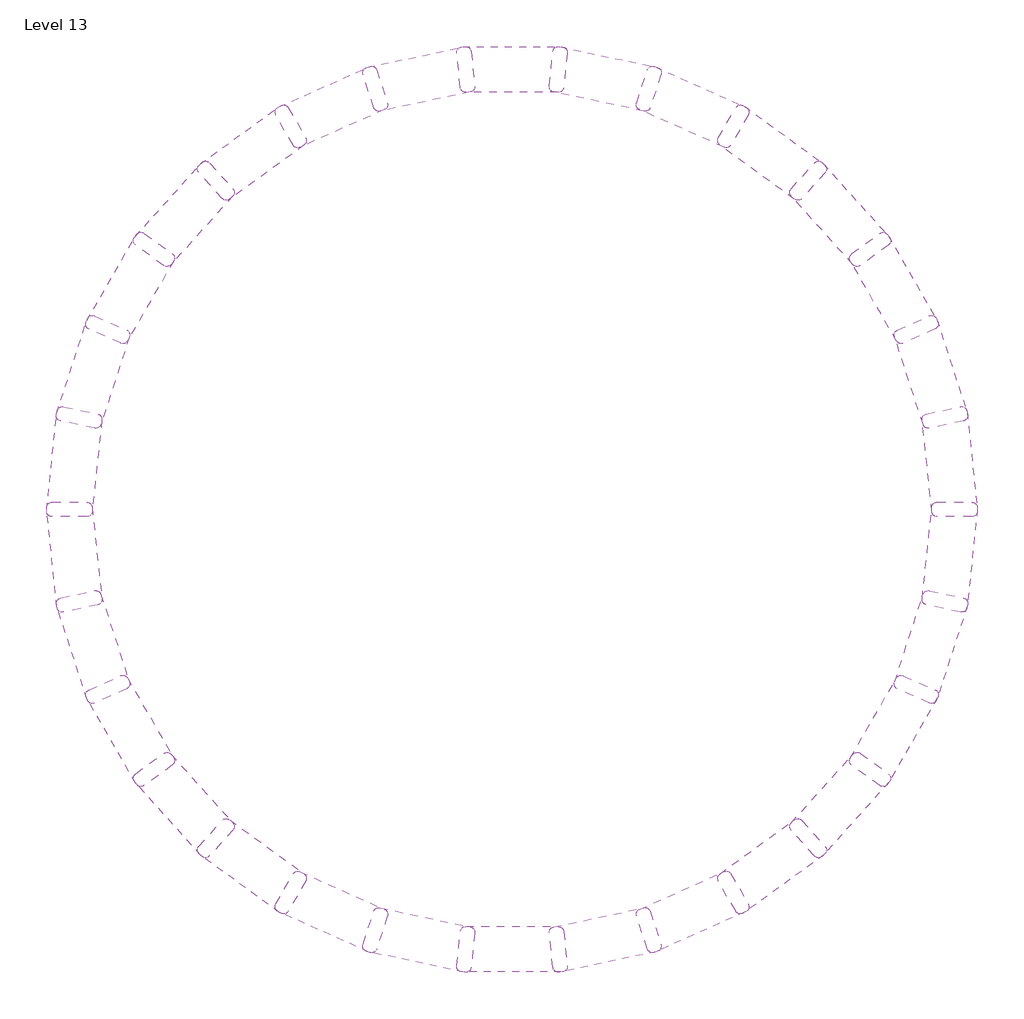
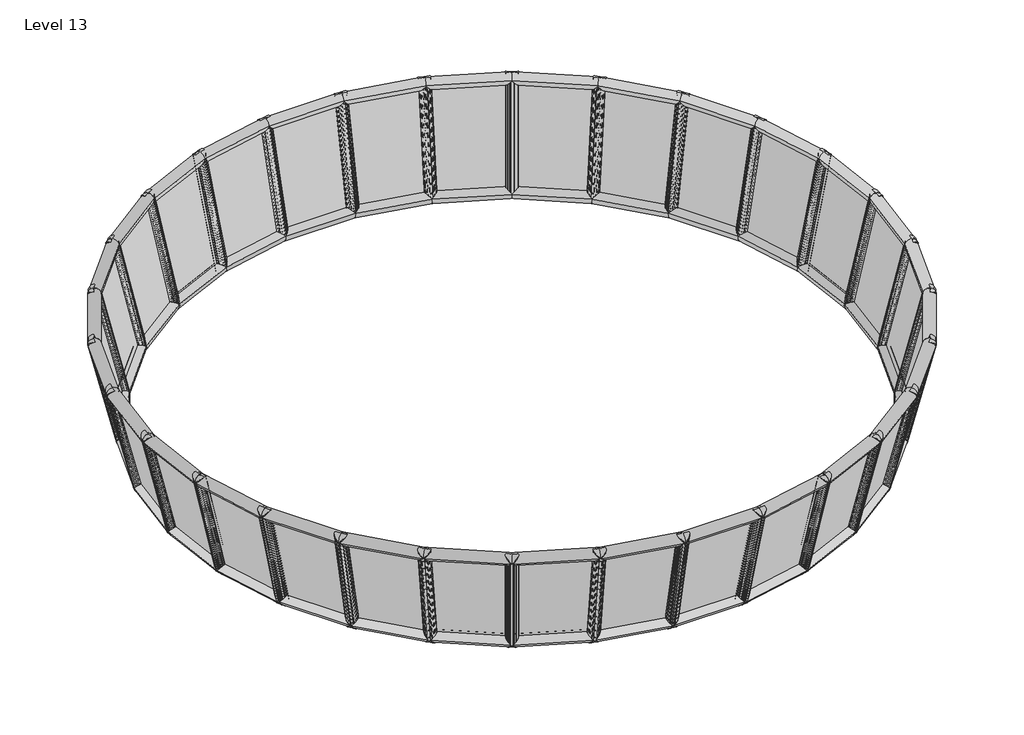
# One storey: 30 plates.
"""IFC4 building model written with IfcOpenShell, lengths in millimetres."""

from ifc_helpers import new_model, si_unit, origin, place, context, project, spatial, transform, mapped, element, save
from components import curtainpanel_curtainpanel_77f478ed

model = new_model("IFC4")

# Units and contexts
model_context = context("Model", 3, world=origin())
ifc_project = project(units=[si_unit("LENGTHUNIT", "METRE", prefix="MILLI")], contexts=[model_context])

# Site, building, storey
site = spatial("IfcSite", under=ifc_project)
building = spatial("IfcBuilding", under=site)
storey = spatial("IfcBuildingStorey", under=building, Name="Level 13", Elevation=48000.0)

# Plates
placement = place(None, origin())
curtainpanel_curtainpanel_shape = curtainpanel_curtainpanel_77f478ed(model_context)
element("IfcPlate", 1, ObjectType="CurtainPanel : CurtainPanel", at=placement, inside=storey, context=model_context, shape_type="MappedRepresentation", body=[
    mapped(curtainpanel_curtainpanel_shape, transform((14575.1595694, -2502.9908414, 59233.9208505), x_axis=(-0.14073762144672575, 0.9772558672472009, -0.15863130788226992), y_axis=(-0.21048519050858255, -0.18609755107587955, -0.9597206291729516), z_axis=(-0.9674135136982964, -0.10167925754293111, 0.231888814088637))),
])
element("IfcPlate", 2, ObjectType="CurtainPanel : CurtainPanel", at=placement, inside=storey, context=model_context, shape_type="MappedRepresentation", body=[
    mapped(curtainpanel_curtainpanel_shape, transform((14711.701922, 640.5791201, 59233.9208505), x_axis=(-0.3408450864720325, 0.9266394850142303, -0.15863130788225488), y_axis=(-0.16719372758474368, -0.2257932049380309, -0.9597206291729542), z_axis=(-0.9251329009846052, -0.3005939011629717, 0.2318888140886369))),
])
element("IfcPlate", 3, ObjectType="CurtainPanel : CurtainPanel", at=placement, inside=storey, context=model_context, shape_type="MappedRepresentation", body=[
    mapped(curtainpanel_curtainpanel_shape, transform((14191.6755507, 3743.8432871, 59233.9208505), x_axis=(-0.5260559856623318, 0.8355245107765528, -0.1586313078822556), y_axis=(-0.11659509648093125, -0.2556206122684, -0.9597206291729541), z_axis=(-0.8424195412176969, -0.4863711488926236, 0.23188881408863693))),
])
element("IfcPlate", 4, ObjectType="CurtainPanel : CurtainPanel", at=placement, inside=storey, context=model_context, shape_type="MappedRepresentation", body=[
    mapped(curtainpanel_curtainpanel_shape, transform((13037.8081032, 6671.1741243, 59233.9208505), x_axis=(-0.6882757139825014, 0.7078931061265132, -0.15863130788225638), y_axis=(-0.06090070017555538, -0.27427617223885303, -0.9597206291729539), z_axis=(-0.722888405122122, -0.6508916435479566, 0.23188881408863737))),
])
element("IfcPlate", 5, ObjectType="CurtainPanel : CurtainPanel", at=placement, inside=storey, context=model_context, shape_type="MappedRepresentation", body=[
    mapped(curtainpanel_curtainpanel_shape, transform((11300.529124, 9294.6332273, 59233.9208505), x_axis=(-0.8204144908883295, 0.5493233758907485, -0.15863130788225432), y_axis=(-0.0025446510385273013, -0.28094454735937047, -0.9597206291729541), z_axis=(-0.5717635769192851, -0.7869650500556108, 0.2318888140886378))),
])
element("IfcPlate", 6, ObjectType="CurtainPanel : CurtainPanel", at=placement, inside=storey, context=model_context, shape_type="MappedRepresentation", body=[
    mapped(curtainpanel_curtainpanel_shape, transform((9055.7660408, 11499.5628446, 59233.9208505), x_axis=(-0.9166972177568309, 0.3667455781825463, -0.1586313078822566), y_axis=(0.055922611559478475, -0.27533429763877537, -0.9597206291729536), z_axis=(-0.39564993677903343, -0.8886443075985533, 0.2318888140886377))),
])
element("IfcPlate", 7, ObjectType="CurtainPanel : CurtainPanel", at=placement, inside=storey, context=model_context, shape_type="MappedRepresentation", body=[
    mapped(curtainpanel_curtainpanel_shape, transform((6401.6257718, 13189.5969714, 59233.9208505), x_axis=(-0.9729158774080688, 0.1681392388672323, -0.1586313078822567), y_axis=(0.11194578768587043, -0.2576906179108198, -0.9597206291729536), z_axis=(-0.20224449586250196, -0.9514855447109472, 0.23188881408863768))),
])
element("IfcPlate", 8, ObjectType="CurtainPanel : CurtainPanel", at=placement, inside=storey, context=model_context, shape_type="MappedRepresentation", body=[
    mapped(curtainpanel_curtainpanel_shape, transform((3454.1069829, 14290.8730066, 59233.9208505), x_axis=(-0.9866134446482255, -0.03781559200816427, -0.15863130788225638), y_axis=(0.1630763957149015, -0.22878462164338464, -0.9597206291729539), z_axis=(0.0, -0.9727422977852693, 0.23188881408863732))),
])
element("IfcPlate", 9, ObjectType="CurtainPanel : CurtainPanel", at=placement, inside=storey, context=model_context, shape_type="MappedRepresentation", body=[
    mapped(curtainpanel_curtainpanel_shape, transform((342.0303889, 14755.2599032, 59233.9208505), x_axis=(-0.9571912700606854, -0.24211770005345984, -0.1586313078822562), y_axis=(0.20707978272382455, -0.18987963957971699, -0.959720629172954), z_axis=(0.202244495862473, -0.9514855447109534, 0.23188881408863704))),
])
element("IfcPlate", 10, ObjectType="CurtainPanel : CurtainPanel", at=placement, inside=storey, context=model_context, shape_type="MappedRepresentation", body=[
    mapped(curtainpanel_curtainpanel_shape, transform((-2798.5913298, 14562.4617252, 59233.9208505), x_axis=(-0.8859352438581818, -0.4358381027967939, -0.15863130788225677), y_axis=(0.24203278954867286, -0.14267600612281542, -0.9597206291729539), z_axis=(0.3956499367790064, -0.8886443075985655, 0.23188881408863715))),
])
element("IfcPlate", 11, ObjectType="CurtainPanel : CurtainPanel", at=placement, inside=storey, context=model_context, shape_type="MappedRepresentation", body=[
    mapped(curtainpanel_curtainpanel_shape, transform((-8621.180555, 12267.3688435, 59233.9208505), x_axis=(-0.6320707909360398, -0.7585002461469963, -0.1586313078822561), y_axis=(0.279139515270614, -0.0318974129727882, -0.9597206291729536), z_axis=(0.7228884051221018, -0.6508916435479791, 0.23188881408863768))),
])
element("IfcPlate", 12, ObjectType="CurtainPanel : CurtainPanel", at=placement, inside=storey, context=model_context, shape_type="MappedRepresentation", body=[
    mapped(curtainpanel_curtainpanel_shape, transform((-13006.8821192, 7802.4367711, 59233.9208505), x_axis=(-0.26891555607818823, -0.9500108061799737, -0.1586313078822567), y_axis=(0.26798048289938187, 0.08439653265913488, -0.9597206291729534), z_axis=(0.9251329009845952, -0.30059390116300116, 0.23188881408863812))),
])
element("IfcPlate", 13, ObjectType="CurtainPanel : CurtainPanel", at=placement, inside=storey, context=model_context, shape_type="MappedRepresentation", body=[
    mapped(curtainpanel_curtainpanel_shape, transform((-5830.4979335, 13720.9046783, 59233.9208505), x_axis=(-0.7759595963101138, -0.6105102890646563, -0.15863130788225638), y_axis=(0.26640780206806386, -0.08923674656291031, -0.9597206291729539), z_axis=(0.5717635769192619, -0.7869650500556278, 0.23188881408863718))),
])
element("IfcPlate", 14, ObjectType="CurtainPanel : CurtainPanel", at=placement, inside=storey, context=model_context, shape_type="MappedRepresentation", body=[
    mapped(curtainpanel_curtainpanel_shape, transform((-11048.6729726, 10265.3807119, 59233.9208505), x_axis=(-0.4605574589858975, -0.873340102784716, -0.15863130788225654), y_axis=(0.27967149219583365, 0.026835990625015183, -0.9597206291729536), z_axis=(0.8424195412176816, -0.48637114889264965, 0.23188881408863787))),
])
element("IfcPlate", 15, ObjectType="CurtainPanel : CurtainPanel", at=placement, inside=storey, context=model_context, shape_type="MappedRepresentation", body=[
    mapped(curtainpanel_curtainpanel_shape, transform((-14410.2248586, 4986.1794902, 59233.9208505), x_axis=(-0.0655207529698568, -0.9851614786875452, -0.15863130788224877), y_axis=(0.24457744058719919, 0.13826854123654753, -0.959720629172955), z_axis=(0.9674135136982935, -0.1016792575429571, 0.23188881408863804))),
])
element("IfcPlate", 16, ObjectType="CurtainPanel : CurtainPanel", at=placement, inside=storey, context=model_context, shape_type="MappedRepresentation", body=[
    mapped(curtainpanel_curtainpanel_shape, transform((-15197.3683791, 1939.692826, 59233.9208505), x_axis=(0.14073762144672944, -0.9772558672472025, -0.1586313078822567), y_axis=(0.21048519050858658, 0.18609755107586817, -0.959720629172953), z_axis=(0.9674135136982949, 0.10167925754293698, 0.2318888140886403))),
])
element("IfcPlate", 17, ObjectType="CurtainPanel : CurtainPanel", at=placement, inside=storey, context=model_context, shape_type="MappedRepresentation", body=[
    mapped(curtainpanel_curtainpanel_shape, transform((-15333.9107316, -1203.8771355, 59233.9208505), x_axis=(0.3408450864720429, -0.9266394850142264, -0.15863130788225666), y_axis=(0.16719372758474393, 0.22579320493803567, -0.9597206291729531), z_axis=(0.9251329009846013, 0.3005939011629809, 0.23188881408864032))),
])
element("IfcPlate", 18, ObjectType="CurtainPanel : CurtainPanel", at=placement, inside=storey, context=model_context, shape_type="MappedRepresentation", body=[
    mapped(curtainpanel_curtainpanel_shape, transform((-14813.8843603, -4307.1413025, 59233.9208505), x_axis=(0.5260559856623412, -0.8355245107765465, -0.1586313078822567), y_axis=(0.11659509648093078, 0.2556206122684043, -0.959720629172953), z_axis=(0.8424195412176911, 0.4863711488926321, 0.23188881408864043))),
])
element("IfcPlate", 19, ObjectType="CurtainPanel : CurtainPanel", at=placement, inside=storey, context=model_context, shape_type="MappedRepresentation", body=[
    mapped(curtainpanel_curtainpanel_shape, transform((-13660.0169129, -7234.4721397, 59233.9208505), x_axis=(0.6882757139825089, -0.7078931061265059, -0.15863130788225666), y_axis=(0.06090070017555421, 0.2742761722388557, -0.9597206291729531), z_axis=(0.7228884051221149, 0.6508916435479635, 0.23188881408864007))),
])
element("IfcPlate", 20, ObjectType="CurtainPanel : CurtainPanel", at=placement, inside=storey, context=model_context, shape_type="MappedRepresentation", body=[
    mapped(curtainpanel_curtainpanel_shape, transform((-11922.7379336, -9857.9312428, 59233.9208505), x_axis=(0.8204144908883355, -0.5493233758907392, -0.15863130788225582), y_axis=(0.0025446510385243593, 0.280944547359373, -0.9597206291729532), z_axis=(0.5717635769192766, 0.7869650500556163, 0.23188881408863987))),
])
element("IfcPlate", 21, ObjectType="CurtainPanel : CurtainPanel", at=placement, inside=storey, context=model_context, shape_type="MappedRepresentation", body=[
    mapped(curtainpanel_curtainpanel_shape, transform((-9677.9748504, -12062.86086, 59233.9208505), x_axis=(0.9166972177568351, -0.36674557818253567, -0.15863130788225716), y_axis=(-0.05592261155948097, 0.2753342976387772, -0.959720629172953), z_axis=(0.3956499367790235, 0.8886443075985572, 0.23188881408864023))),
])
element("IfcPlate", 22, ObjectType="CurtainPanel : CurtainPanel", at=placement, inside=storey, context=model_context, shape_type="MappedRepresentation", body=[
    mapped(curtainpanel_curtainpanel_shape, transform((-7023.8345814, -13752.8949868, 59233.9208505), x_axis=(0.9729158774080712, -0.16813923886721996, -0.15863130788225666), y_axis=(-0.11194578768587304, 0.25769061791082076, -0.9597206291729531), z_axis=(0.20224449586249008, 0.9514855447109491, 0.23188881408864))),
])
element("IfcPlate", 23, ObjectType="CurtainPanel : CurtainPanel", at=placement, inside=storey, context=model_context, shape_type="MappedRepresentation", body=[
    mapped(curtainpanel_curtainpanel_shape, transform((-4076.3157925, -14854.1710221, 59233.9208505), x_axis=(0.9866134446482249, 0.037815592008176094, -0.15863130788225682), y_axis=(-0.1630763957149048, 0.2287846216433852, -0.9597206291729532), z_axis=(0.0, 0.9727422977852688, 0.23188881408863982))),
])
element("IfcPlate", 24, ObjectType="CurtainPanel : CurtainPanel", at=placement, inside=storey, context=model_context, shape_type="MappedRepresentation", body=[
    mapped(curtainpanel_curtainpanel_shape, transform((-964.2391985, -15318.5579186, 59233.9208505), x_axis=(0.9571912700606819, 0.24211770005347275, -0.15863130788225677), y_axis=(-0.20707978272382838, 0.18987963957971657, -0.9597206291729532), z_axis=(-0.20224449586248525, 0.9514855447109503, 0.2318888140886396))),
])
element("IfcPlate", 25, ObjectType="CurtainPanel : CurtainPanel", at=placement, inside=storey, context=model_context, shape_type="MappedRepresentation", body=[
    mapped(curtainpanel_curtainpanel_shape, transform((2176.3825201, -15125.7597406, 59233.9208505), x_axis=(0.8859352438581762, 0.43583810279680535, -0.15863130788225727), y_axis=(-0.24203278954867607, 0.14267600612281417, -0.9597206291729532), z_axis=(-0.3956499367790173, 0.8886443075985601, 0.23188881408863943))),
])
element("IfcPlate", 26, ObjectType="CurtainPanel : CurtainPanel", at=placement, inside=storey, context=model_context, shape_type="MappedRepresentation", body=[
    mapped(curtainpanel_curtainpanel_shape, transform((7998.9717454, -12830.666859, 59233.9208505), x_axis=(0.6320707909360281, 0.7585002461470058, -0.15863130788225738), y_axis=(-0.2791395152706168, 0.03189741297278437, -0.959720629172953), z_axis=(-0.7228884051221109, 0.6508916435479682, 0.23188881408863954))),
])
element("IfcPlate", 27, ObjectType="CurtainPanel : CurtainPanel", at=placement, inside=storey, context=model_context, shape_type="MappedRepresentation", body=[
    mapped(curtainpanel_curtainpanel_shape, transform((12384.6733096, -8365.7347866, 59233.9208505), x_axis=(0.2689155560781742, 0.9500108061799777, -0.158631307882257), y_axis=(-0.26798048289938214, -0.08439653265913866, -0.9597206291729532), z_axis=(-0.9251329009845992, 0.3005939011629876, 0.23188881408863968))),
])
element("IfcPlate", 28, ObjectType="CurtainPanel : CurtainPanel", at=placement, inside=storey, context=model_context, shape_type="MappedRepresentation", body=[
    mapped(curtainpanel_curtainpanel_shape, transform((5208.2891239, -14284.2026937, 59233.9208505), x_axis=(0.7759595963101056, 0.6105102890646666, -0.15863130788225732), y_axis=(-0.2664078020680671, 0.08923674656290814, -0.9597206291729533), z_axis=(-0.5717635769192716, 0.78696505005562, 0.2318888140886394))),
])
element("IfcPlate", 29, ObjectType="CurtainPanel : CurtainPanel", at=placement, inside=storey, context=model_context, shape_type="MappedRepresentation", body=[
    mapped(curtainpanel_curtainpanel_shape, transform((10426.464163, -10828.6787273, 59233.9208505), x_axis=(0.46055745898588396, 0.8733401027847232, -0.15863130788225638), y_axis=(-0.27967149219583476, -0.026835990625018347, -0.9597206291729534), z_axis=(-0.8424195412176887, 0.48637114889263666, 0.23188881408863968))),
])
element("IfcPlate", 30, ObjectType="CurtainPanel : CurtainPanel", at=placement, inside=storey, context=model_context, shape_type="MappedRepresentation", body=[
    mapped(curtainpanel_curtainpanel_shape, transform((13788.016049, -5549.4775056, 59233.9208505), x_axis=(0.06552075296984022, 0.9851614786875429, -0.15863130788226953), y_axis=(-0.24457744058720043, -0.1382685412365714, -0.9597206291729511), z_axis=(-0.9674135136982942, 0.10167925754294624, 0.23188881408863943))),
])

save(model, "model.ifc")
